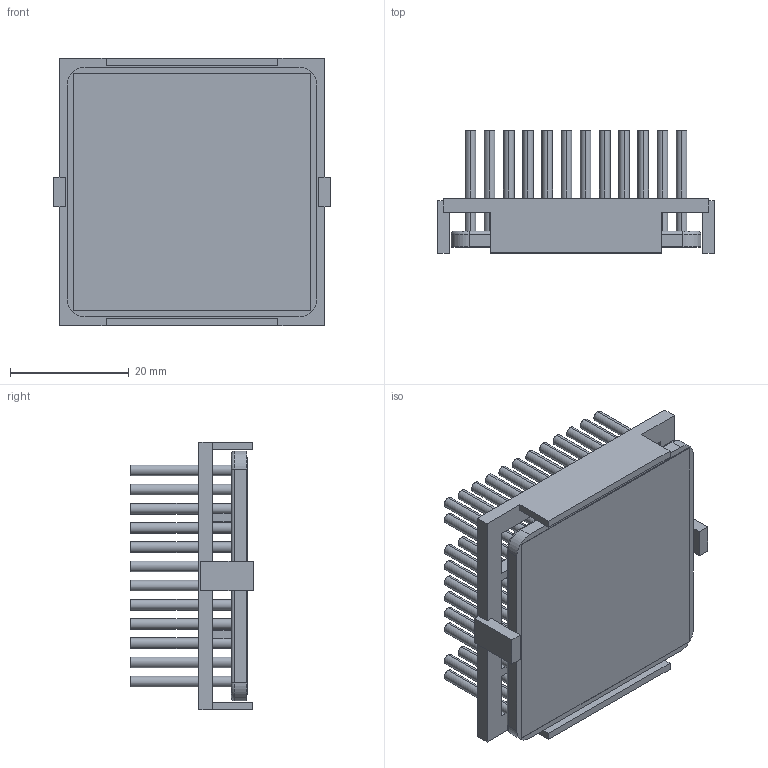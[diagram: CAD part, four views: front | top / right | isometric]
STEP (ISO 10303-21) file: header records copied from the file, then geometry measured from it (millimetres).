
FILE_DESCRIPTION (( 'STEP AP214' ), '1' );
FILE_NAME ('INM42.5002-20P-2.6O.STEP', '2023-02-28T00:23:20', ( '' ), ( '' ), 'SwSTEP 2.0', 'SolidWorks 2020', '' );
FILE_SCHEMA (( 'AUTOMOTIVE_DESIGN' ));
Length unit declared in the file: inch
Products named in the file (1): INM42.5002-20P-2.6O
Bounding box: 46.7 x 20.7 x 45.1 mm (x, y, z)
Volume: 12794.5 mm3; surface area: 23497.5 mm2
Topology: 3 solids, 3 shells, 486 faces, 1024 edges, 680 vertices
Faces by surface type: cylinder 280, plane 202, torus 4
Entity records: 19652 total; most frequent: DIRECTION 2562, CARTESIAN_POINT 2191, ORIENTED_EDGE 2048, AXIS2_PLACEMENT_3D 1051, EDGE_CURVE 1024, VERTEX_POINT 680, EDGE_LOOP 624, CIRCLE 564
